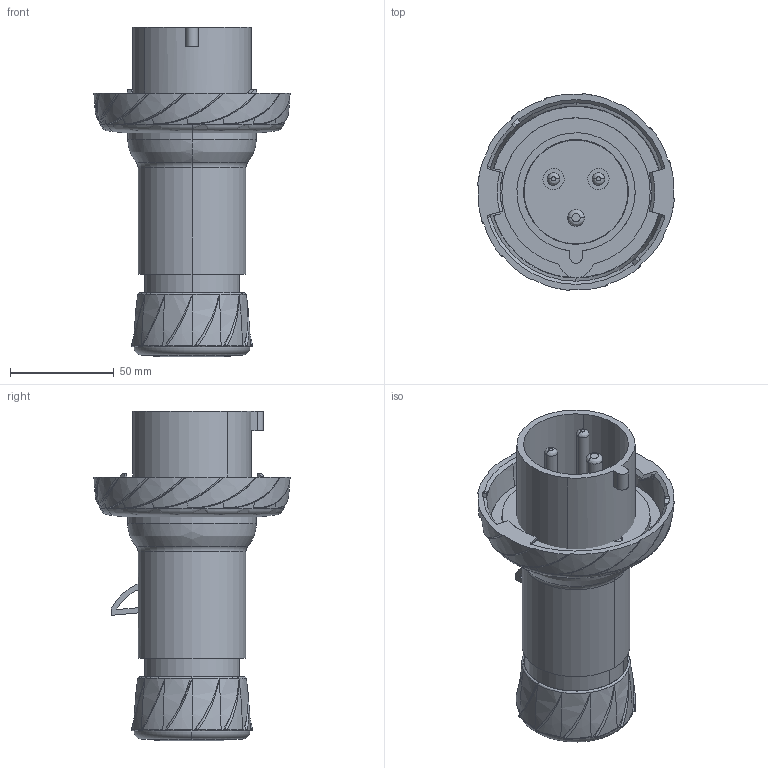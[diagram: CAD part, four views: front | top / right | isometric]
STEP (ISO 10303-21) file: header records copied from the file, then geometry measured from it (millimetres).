
FILE_DESCRIPTION((''),'2;1');
FILE_NAME('PKX32M723_3D-SIMPLIFIED_ASM','2023-01-16T11:03:18',('gines.fernandez'),(''),'CREO PARAMETRIC BY PTC INC, 2018260','CREO PARAMETRIC BY PTC INC, 2018260','');
FILE_SCHEMA(('CONFIG_CONTROL_DESIGN'));
Length unit declared in the file: inch
Products named in the file (12): PRT_001; PRT_002; PRT_003; PRT_004; PRT_005; PRT_006; PRT_008; PRT_009; PRT_010; PRT0019; ASM_001_ASM; PKX32M723_3D-SIMPLIFIED_ASM
Assembly tree (11 placements, depth 3):
  PKX32M723_3D-SIMPLIFIED_ASM
    PRT_001
    PRT_002
    PRT_003
    PRT_004
    PRT_005
    PRT_006
    ASM_001_ASM
      PRT_008
      PRT_009
      PRT_010
      PRT0019
Bounding box: 94.67 x 94.67 x 158.74 mm (x, y, z)
Volume: 217561.3 mm3; surface area: 115094.7 mm2
Topology: 10 solids, 10 shells, 404 faces, 1115 edges, 739 vertices
Faces by surface type: cylinder 132, bspline 104, plane 91, torus 48, cone 25, sphere 4
Entity records: 21679 total; most frequent: CARTESIAN_POINT 11793, ORIENTED_EDGE 2222, DIRECTION 1836, EDGE_CURVE 1111, AXIS2_PLACEMENT_3D 779, VERTEX_POINT 739, CIRCLE 452, EDGE_LOOP 430
